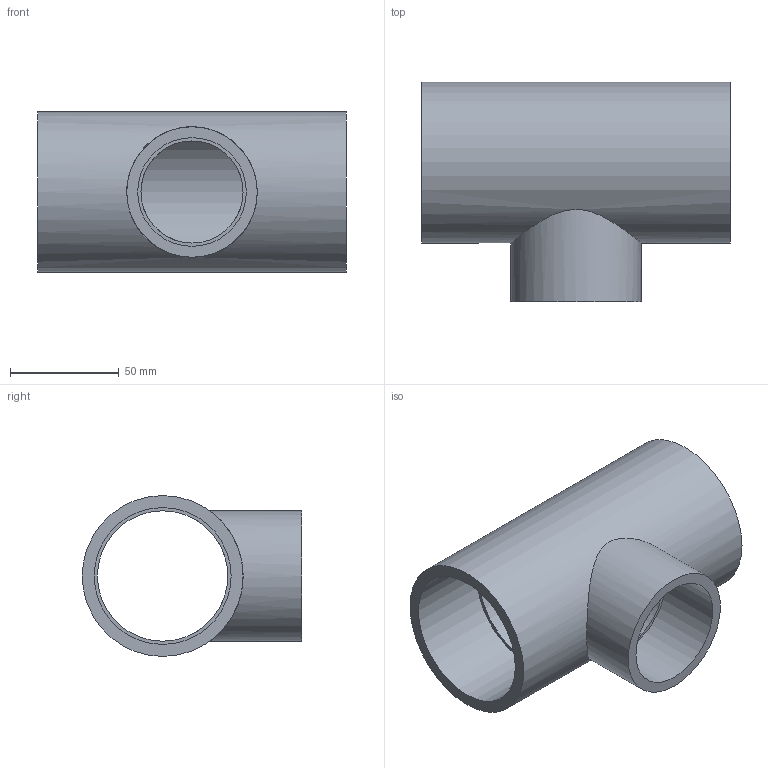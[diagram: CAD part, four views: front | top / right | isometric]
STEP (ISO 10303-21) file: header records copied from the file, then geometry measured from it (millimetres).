
FILE_DESCRIPTION(/* description */ ('PVC ti a 90° ridotto incollaggio metrico'),/* implementation_level */ '2;1');
FILE_NAME(/* name */ 'C:\Users\POLYPIPE\Desktop\DATASET INVENTOR\LIBRERIA EFFAST\RACCORDI 3DxWEB\RDR\3D_RDRTRD\3D_RDRTRD063F.stp',/* time_stamp */ '2018-01-19T15:47:55+01:00',/* author */ ('POLYPIPE'),/* organization */ ('Polypipe Italia s.r.l.'),/* preprocessor_version */ 'ST-DEVELOPER v16.1',/* originating_system */ 'Autodesk Inventor 2016',/* authorisation */ '');
FILE_SCHEMA (('CONFIG_CONTROL_DESIGN'));
Length unit declared in the file: millimetre
Products named in the file (1): 3D_RDRTRD
Bounding box: 142 x 101 x 74 mm (x, y, z)
Volume: 202611 mm3; surface area: 72016.3 mm2
Topology: 1 solids, 1 shells, 13 faces, 23 edges, 16 vertices
Faces by surface type: cylinder 7, plane 6
Full cylindrical faces by diameter (mm): 47 x1, 50 x1, 60 x2, 63 x2, 74 x1
Entity records: 430 total; most frequent: CARTESIAN_POINT 172, DIRECTION 52, EDGE_LOOP 28, ORIENTED_EDGE 28, AXIS2_PLACEMENT_3D 26, FACE_BOUND 15, VERTEX_POINT 14, EDGE_CURVE 14
